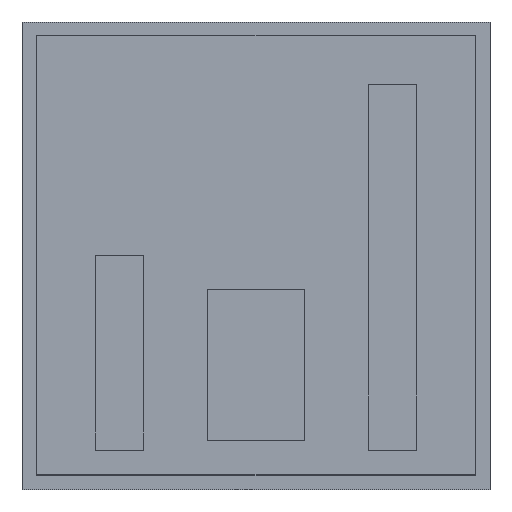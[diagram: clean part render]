
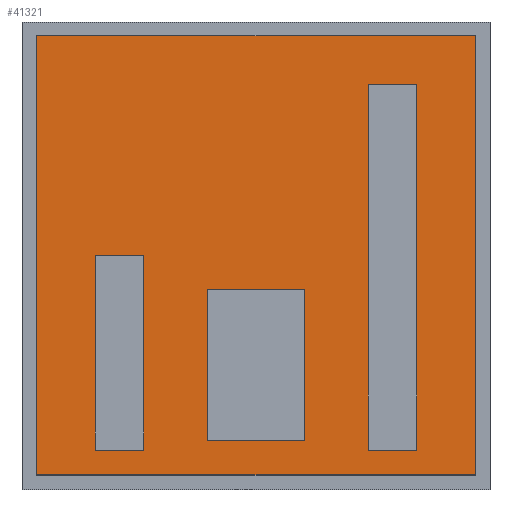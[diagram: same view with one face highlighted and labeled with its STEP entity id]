
A CAD part, top view. The second image highlights one B-rep face of the part: STEP entity #41321.
In plain terms, the highlighted planar face has unit normal (0, 0, 1).
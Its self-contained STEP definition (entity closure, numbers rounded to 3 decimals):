
#40861=CARTESIAN_POINT('',(10.0,-7.,95.6));
#40862=VERTEX_POINT('',#40861);
#40863=CARTESIAN_POINT('',(10.,-38.,95.6));
#40864=VERTEX_POINT('',#40863);
#40865=CARTESIAN_POINT('',(10.,-7.,95.6));
#40866=DIRECTION('',(0.0,-1.0,0.0));
#40867=VECTOR('',#40866,31.);
#40868=LINE('',#40865,#40867);
#40869=EDGE_CURVE('',#40862,#40864,#40868,.T.);
#40901=CARTESIAN_POINT('',(-10.,-38.0,95.6));
#40902=VERTEX_POINT('',#40901);
#40903=CARTESIAN_POINT('',(10.,-38.,95.6));
#40904=DIRECTION('',(-1.0,0.0,0.0));
#40905=VECTOR('',#40904,20.);
#40906=LINE('',#40903,#40905);
#40907=EDGE_CURVE('',#40864,#40902,#40906,.T.);
#40932=CARTESIAN_POINT('',(-10.,-7.,95.6));
#40933=VERTEX_POINT('',#40932);
#40934=CARTESIAN_POINT('',(-10.,-38.0,95.6));
#40935=DIRECTION('',(0.0,1.0,0.0));
#40936=VECTOR('',#40935,31.);
#40937=LINE('',#40934,#40936);
#40938=EDGE_CURVE('',#40902,#40933,#40937,.T.);
#40963=CARTESIAN_POINT('',(-10.,-7.,95.6));
#40964=DIRECTION('',(1.0,0.0,0.0));
#40965=VECTOR('',#40964,20.);
#40966=LINE('',#40963,#40965);
#40967=EDGE_CURVE('',#40933,#40862,#40966,.T.);
#40997=CARTESIAN_POINT('',(-33.,-40.0,95.6));
#40998=VERTEX_POINT('',#40997);
#40999=CARTESIAN_POINT('',(-33.,0.0,95.6));
#41000=VERTEX_POINT('',#40999);
#41001=CARTESIAN_POINT('',(-33.,-40.0,95.6));
#41002=DIRECTION('',(0.0,1.0,0.0));
#41003=VECTOR('',#41002,40.0);
#41004=LINE('',#41001,#41003);
#41005=EDGE_CURVE('',#40998,#41000,#41004,.T.);
#41037=CARTESIAN_POINT('',(-23.,0.,95.6));
#41038=VERTEX_POINT('',#41037);
#41039=CARTESIAN_POINT('',(-33.,0.0,95.6));
#41040=DIRECTION('',(1.0,0.0,0.0));
#41041=VECTOR('',#41040,10.);
#41042=LINE('',#41039,#41041);
#41043=EDGE_CURVE('',#41000,#41038,#41042,.T.);
#41068=CARTESIAN_POINT('',(-23.,-40.0,95.6));
#41069=VERTEX_POINT('',#41068);
#41070=CARTESIAN_POINT('',(-23.,0.,95.6));
#41071=DIRECTION('',(0.0,-1.0,0.0));
#41072=VECTOR('',#41071,40.0);
#41073=LINE('',#41070,#41072);
#41074=EDGE_CURVE('',#41038,#41069,#41073,.T.);
#41099=CARTESIAN_POINT('',(-23.,-40.0,95.6));
#41100=DIRECTION('',(-1.0,0.0,0.0));
#41101=VECTOR('',#41100,10.);
#41102=LINE('',#41099,#41101);
#41103=EDGE_CURVE('',#41069,#40998,#41102,.T.);
#41133=CARTESIAN_POINT('',(33.,35.,95.6));
#41134=VERTEX_POINT('',#41133);
#41135=CARTESIAN_POINT('',(33.,-40.0,95.6));
#41136=VERTEX_POINT('',#41135);
#41137=CARTESIAN_POINT('',(33.,35.,95.6));
#41138=DIRECTION('',(0.0,-1.0,0.0));
#41139=VECTOR('',#41138,75.);
#41140=LINE('',#41137,#41139);
#41141=EDGE_CURVE('',#41134,#41136,#41140,.T.);
#41173=CARTESIAN_POINT('',(23.,-40.,95.6));
#41174=VERTEX_POINT('',#41173);
#41175=CARTESIAN_POINT('',(33.,-40.,95.6));
#41176=DIRECTION('',(-1.0,0.0,0.0));
#41177=VECTOR('',#41176,10.0);
#41178=LINE('',#41175,#41177);
#41179=EDGE_CURVE('',#41136,#41174,#41178,.T.);
#41204=CARTESIAN_POINT('',(23.,35.,95.6));
#41205=VERTEX_POINT('',#41204);
#41206=CARTESIAN_POINT('',(23.,-40.,95.6));
#41207=DIRECTION('',(0.0,1.0,0.0));
#41208=VECTOR('',#41207,75.0);
#41209=LINE('',#41206,#41208);
#41210=EDGE_CURVE('',#41174,#41205,#41209,.T.);
#41235=CARTESIAN_POINT('',(23.,35.,95.6));
#41236=DIRECTION('',(1.0,0.0,0.0));
#41237=VECTOR('',#41236,10.);
#41238=LINE('',#41235,#41237);
#41239=EDGE_CURVE('',#41205,#41134,#41238,.T.);
#41264=CARTESIAN_POINT('',(0.0,0.0,95.6));
#41265=DIRECTION('',(0.0,0.0,1.0));
#41266=DIRECTION('',(1.0,0.0,0.0));
#41267=AXIS2_PLACEMENT_3D('',#41264,#41265,#41266);
#41268=PLANE('',#41267);
#41269=CARTESIAN_POINT('',(-45.0,-45.0,95.6));
#41270=VERTEX_POINT('',#41269);
#41271=CARTESIAN_POINT('',(45.0,-45.0,95.6));
#41272=VERTEX_POINT('',#41271);
#41273=CARTESIAN_POINT('',(-45.0,-45.0,95.6));
#41274=DIRECTION('',(1.0,0.0,0.0));
#41275=VECTOR('',#41274,90.0);
#41276=LINE('',#41273,#41275);
#41277=EDGE_CURVE('',#41270,#41272,#41276,.T.);
#41278=ORIENTED_EDGE('',*,*,#41277,.T.);
#41279=CARTESIAN_POINT('',(45.0,45.0,95.6));
#41280=VERTEX_POINT('',#41279);
#41281=CARTESIAN_POINT('',(45.0,-45.0,95.6));
#41282=DIRECTION('',(0.0,1.0,0.0));
#41283=VECTOR('',#41282,90.0);
#41284=LINE('',#41281,#41283);
#41285=EDGE_CURVE('',#41272,#41280,#41284,.T.);
#41286=ORIENTED_EDGE('',*,*,#41285,.T.);
#41287=CARTESIAN_POINT('',(-45.0,45.0,95.6));
#41288=VERTEX_POINT('',#41287);
#41289=CARTESIAN_POINT('',(45.0,45.0,95.6));
#41290=DIRECTION('',(-1.0,0.0,0.0));
#41291=VECTOR('',#41290,90.0);
#41292=LINE('',#41289,#41291);
#41293=EDGE_CURVE('',#41280,#41288,#41292,.T.);
#41294=ORIENTED_EDGE('',*,*,#41293,.T.);
#41295=CARTESIAN_POINT('',(-45.0,45.0,95.6));
#41296=DIRECTION('',(0.0,-1.0,0.0));
#41297=VECTOR('',#41296,90.0);
#41298=LINE('',#41295,#41297);
#41299=EDGE_CURVE('',#41288,#41270,#41298,.T.);
#41300=ORIENTED_EDGE('',*,*,#41299,.T.);
#41301=EDGE_LOOP('',(#41278,#41286,#41294,#41300));
#41302=FACE_OUTER_BOUND('',#41301,.T.);
#41303=ORIENTED_EDGE('',*,*,#40869,.T.);
#41304=ORIENTED_EDGE('',*,*,#40907,.T.);
#41305=ORIENTED_EDGE('',*,*,#40938,.T.);
#41306=ORIENTED_EDGE('',*,*,#40967,.T.);
#41307=EDGE_LOOP('',(#41303,#41304,#41305,#41306));
#41308=FACE_BOUND('',#41307,.T.);
#41309=ORIENTED_EDGE('',*,*,#41005,.T.);
#41310=ORIENTED_EDGE('',*,*,#41043,.T.);
#41311=ORIENTED_EDGE('',*,*,#41074,.T.);
#41312=ORIENTED_EDGE('',*,*,#41103,.T.);
#41313=EDGE_LOOP('',(#41309,#41310,#41311,#41312));
#41314=FACE_BOUND('',#41313,.T.);
#41315=ORIENTED_EDGE('',*,*,#41141,.T.);
#41316=ORIENTED_EDGE('',*,*,#41179,.T.);
#41317=ORIENTED_EDGE('',*,*,#41210,.T.);
#41318=ORIENTED_EDGE('',*,*,#41239,.T.);
#41319=EDGE_LOOP('',(#41315,#41316,#41317,#41318));
#41320=FACE_BOUND('',#41319,.T.);
#41321=ADVANCED_FACE('',(#41302,#41308,#41314,#41320),#41268,.T.);
